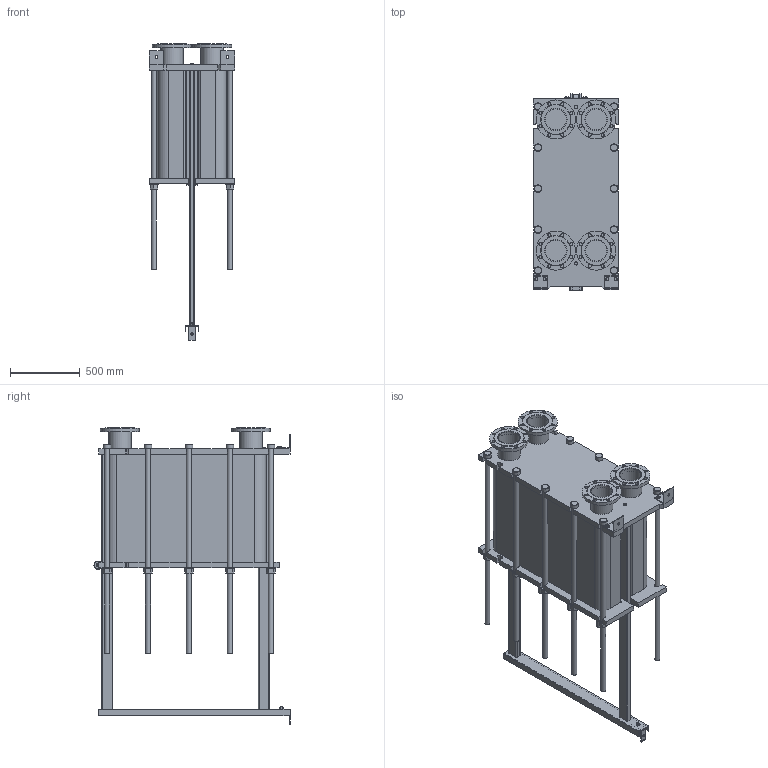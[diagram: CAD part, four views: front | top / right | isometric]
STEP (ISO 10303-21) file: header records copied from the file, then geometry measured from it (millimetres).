
FILE_DESCRIPTION(/* description */ (''),/* implementation_level */ '2;1');
FILE_NAME(/* name */ 'C:\Users\zhuro\Desktop\ENCO\TO\ЭН-041\ЭН-0,5-041-225-1.stp',/* time_stamp */ '2022-06-06T11:07:38+03:00',/* author */ ('zhuro'),/* organization */ (''),/* preprocessor_version */ 'ST-DEVELOPER v18.1',/* originating_system */ 'Autodesk Inventor 2022',/* authorisation */ '');
FILE_SCHEMA (('AUTOMOTIVE_DESIGN { 1 0 10303 214 3 1 1 }'));
Length unit declared in the file: millimetre
Products named in the file (1): ЭН-0,5-041-225-1
Bounding box: 610 x 1406.5 x 2127.5 mm (x, y, z)
Volume: 525849159.4 mm3; surface area: 11780658.6 mm2
Topology: 52 solids, 52 shells, 711 faces, 1696 edges, 1094 vertices
Faces by surface type: plane 487, cylinder 177, cone 41, torus 6
Full cylindrical faces by diameter (mm): 8 x4, 10 x2, 16 x8, 18 x3, 22 x32, 36 x24, 50 x1, 54 x10, 60 x12, 151 x4, 161 x8, 280 x4
Entity records: 22667 total; most frequent: CARTESIAN_POINT 5230, DIRECTION 3644, ORIENTED_EDGE 3392, EDGE_CURVE 1696, AXIS2_PLACEMENT_3D 1272, LINE 1100, VECTOR 1100, VERTEX_POINT 1094
